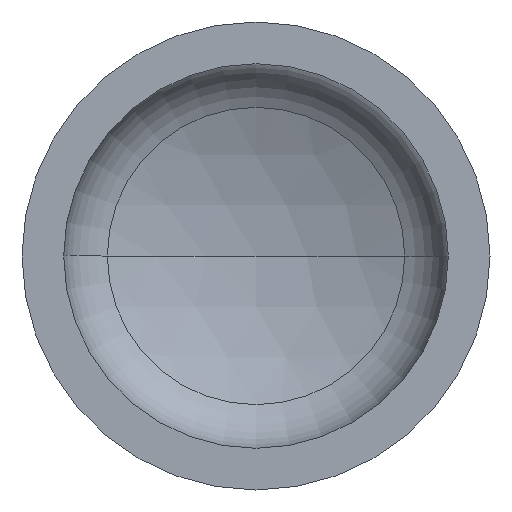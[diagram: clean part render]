
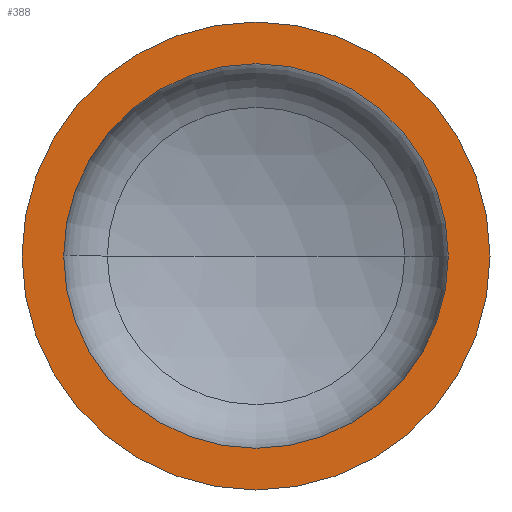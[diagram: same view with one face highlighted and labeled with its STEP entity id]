
A CAD part, front view. The second image highlights one B-rep face of the part: STEP entity #388.
In plain terms, the highlighted planar face has unit normal (0, -1, 0).
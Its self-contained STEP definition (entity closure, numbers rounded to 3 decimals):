
#11 = EDGE_LOOP ( 'NONE', ( #27, #100 ) ) ;
#25 = VERTEX_POINT ( 'NONE', #280 ) ;
#27 = ORIENTED_EDGE ( 'NONE', *, *, #54, .T. ) ;
#36 = VERTEX_POINT ( 'NONE', #248 ) ;
#38 = EDGE_LOOP ( 'NONE', ( #99, #64 ) ) ;
#54 = EDGE_CURVE ( 'NONE', #36, #69, #105, .T. ) ;
#64 = ORIENTED_EDGE ( 'NONE', *, *, #393, .F. ) ;
#69 = VERTEX_POINT ( 'NONE', #273 ) ;
#99 = ORIENTED_EDGE ( 'NONE', *, *, #195, .F. ) ;
#100 = ORIENTED_EDGE ( 'NONE', *, *, #178, .T. ) ;
#105 = CIRCLE ( 'NONE', #401, 550. ) ;
#113 = DIRECTION ( 'NONE',  ( 0., -1., 0. ) ) ;
#119 = VERTEX_POINT ( 'NONE', #352 ) ;
#124 = PLANE ( 'NONE',  #271 ) ;
#128 = CIRCLE ( 'NONE', #223, 452. ) ;
#132 = AXIS2_PLACEMENT_3D ( 'NONE', #252, #334, #275 ) ;
#163 = CIRCLE ( 'NONE', #257, 452. ) ;
#171 = FACE_BOUND ( 'NONE', #38, .T. ) ;
#178 = EDGE_CURVE ( 'NONE', #69, #36, #276, .T. ) ;
#179 = CARTESIAN_POINT ( 'NONE',  ( -550., 0., 0. ) ) ;
#195 = EDGE_CURVE ( 'NONE', #119, #25, #128, .T. ) ;
#223 = AXIS2_PLACEMENT_3D ( 'NONE', #250, #113, #303 ) ;
#225 = CARTESIAN_POINT ( 'NONE',  ( 0., 0., 0. ) ) ;
#226 = DIRECTION ( 'NONE',  ( 0., 1., 0. ) ) ;
#229 = DIRECTION ( 'NONE',  ( -1., 0., 0. ) ) ;
#236 = FACE_OUTER_BOUND ( 'NONE', #11, .T. ) ;
#248 = CARTESIAN_POINT ( 'NONE',  ( 550., 0., 0. ) ) ;
#250 = CARTESIAN_POINT ( 'NONE',  ( 0., 0., 0. ) ) ;
#252 = CARTESIAN_POINT ( 'NONE',  ( 0., 0., 0. ) ) ;
#254 = DIRECTION ( 'NONE',  ( 1., 0., 0. ) ) ;
#257 = AXIS2_PLACEMENT_3D ( 'NONE', #225, #404, #254 ) ;
#271 = AXIS2_PLACEMENT_3D ( 'NONE', #179, #226, #229 ) ;
#273 = CARTESIAN_POINT ( 'NONE',  ( -550., 0., 0. ) ) ;
#275 = DIRECTION ( 'NONE',  ( 1., 0., 0. ) ) ;
#276 = CIRCLE ( 'NONE', #132, 550. ) ;
#280 = CARTESIAN_POINT ( 'NONE',  ( -452., 0., 0. ) ) ;
#303 = DIRECTION ( 'NONE',  ( 1., 0., 0. ) ) ;
#332 = DIRECTION ( 'NONE',  ( 1., 0., 0. ) ) ;
#334 = DIRECTION ( 'NONE',  ( 0., -1., 0. ) ) ;
#336 = DIRECTION ( 'NONE',  ( 0., -1., 0. ) ) ;
#337 = CARTESIAN_POINT ( 'NONE',  ( 0., 0., 0. ) ) ;
#352 = CARTESIAN_POINT ( 'NONE',  ( 452., 0., 0. ) ) ;
#388 = ADVANCED_FACE ( 'NONE', ( #171, #236 ), #124, .F. ) ;
#393 = EDGE_CURVE ( 'NONE', #25, #119, #163, .T. ) ;
#401 = AXIS2_PLACEMENT_3D ( 'NONE', #337, #336, #332 ) ;
#404 = DIRECTION ( 'NONE',  ( 0., -1., 0. ) ) ;
